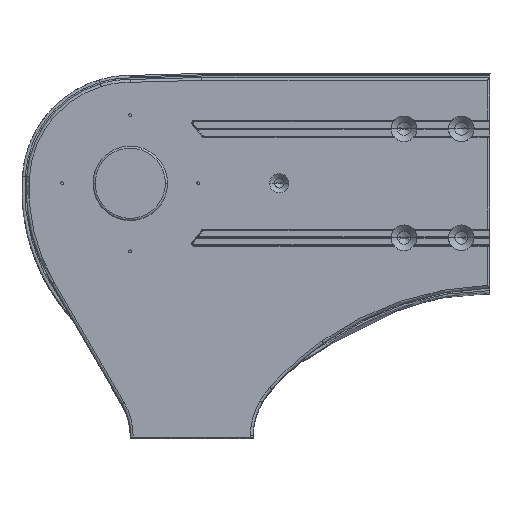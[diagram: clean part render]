
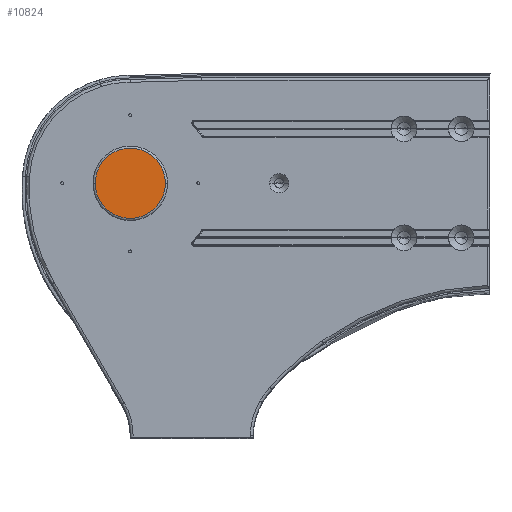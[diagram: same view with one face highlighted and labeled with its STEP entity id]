
A CAD part, top view. The second image highlights one B-rep face of the part: STEP entity #10824.
In plain terms, the highlighted planar face has unit normal (0, 0, 1).
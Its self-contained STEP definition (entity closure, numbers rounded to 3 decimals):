
#1605 = DIRECTION ( 'NONE',  ( -1., 0., 0. ) ) ;
#2898 = DIRECTION ( 'NONE',  ( 0., 0., -1. ) ) ;
#4551 = DIRECTION ( 'NONE',  ( 0., 0., 1. ) ) ;
#4690 = CARTESIAN_POINT ( 'NONE',  ( 0., 0., 178.55 ) ) ;
#5320 = CIRCLE ( 'NONE', #8307, 24.5 ) ;
#6224 = CARTESIAN_POINT ( 'NONE',  ( 0., 0., 178.55 ) ) ;
#7301 = ORIENTED_EDGE ( 'NONE', *, *, #17258, .T. ) ;
#7844 = PLANE ( 'NONE',  #7848 ) ;
#7848 = AXIS2_PLACEMENT_3D ( 'NONE', #4690, #2898, #15679 ) ;
#8307 = AXIS2_PLACEMENT_3D ( 'NONE', #6224, #4551, #1605 ) ;
#9575 = ORIENTED_EDGE ( 'NONE', *, *, #10338, .T. ) ;
#10273 = VERTEX_POINT ( 'NONE', #16950 ) ;
#10338 = EDGE_CURVE ( 'NONE', #10273, #19681, #11766, .T. ) ;
#10824 = ADVANCED_FACE ( 'NONE', ( #16956 ), #7844, .F. ) ;
#11766 = CIRCLE ( 'NONE', #14693, 24.5 ) ;
#12403 = DIRECTION ( 'NONE',  ( -1., 0., 0. ) ) ;
#14693 = AXIS2_PLACEMENT_3D ( 'NONE', #17079, #17216, #12403 ) ;
#15679 = DIRECTION ( 'NONE',  ( -1., 0., 0. ) ) ;
#16950 = CARTESIAN_POINT ( 'NONE',  ( -24.5, 0., 178.55 ) ) ;
#16956 = FACE_OUTER_BOUND ( 'NONE', #20176, .T. ) ;
#17079 = CARTESIAN_POINT ( 'NONE',  ( 0., 0., 178.55 ) ) ;
#17216 = DIRECTION ( 'NONE',  ( 0., 0., 1. ) ) ;
#17258 = EDGE_CURVE ( 'NONE', #19681, #10273, #5320, .T. ) ;
#18428 = CARTESIAN_POINT ( 'NONE',  ( 24.5, 0., 178.55 ) ) ;
#19681 = VERTEX_POINT ( 'NONE', #18428 ) ;
#20176 = EDGE_LOOP ( 'NONE', ( #9575, #7301 ) ) ;
